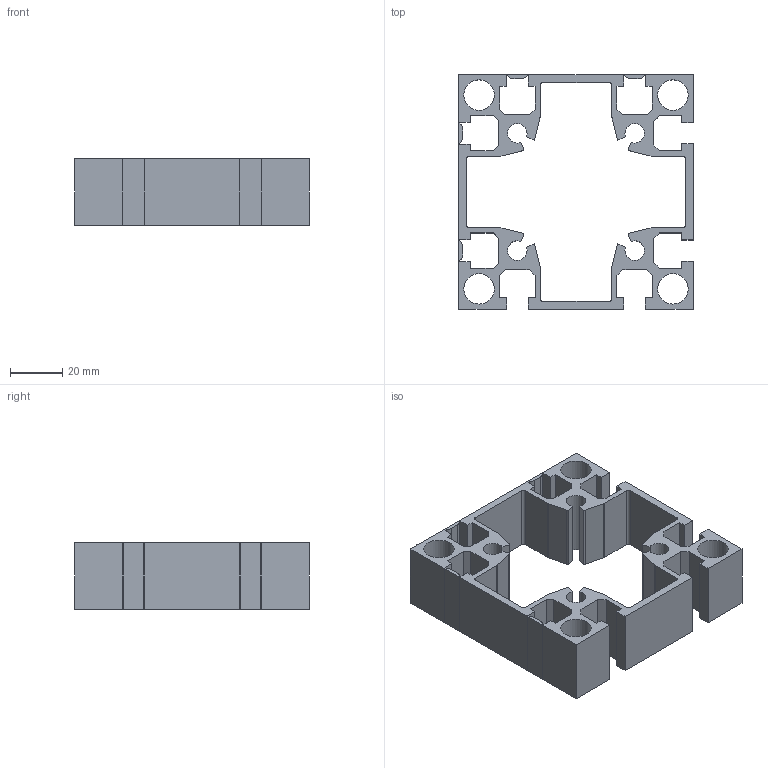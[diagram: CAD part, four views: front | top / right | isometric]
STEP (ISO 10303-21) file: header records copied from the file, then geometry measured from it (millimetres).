
FILE_DESCRIPTION((''),'2;1');
FILE_NAME('C:\Documents and Settings\Administrator\My Documents\Andys Backup Data\WEBSITE\DREAMWEAVER\MiniTec\Products\Aluminum_Profiles\CAD\STEP\20.1044 90X90 2G.stp','2011-01-18T15:10:44',('Administrator'),(''),'Autodesk Inventor 2009','Autodesk Inventor 2009','');
FILE_SCHEMA(('AUTOMOTIVE_DESIGN { 1 0 10303 214 1 1 1 1 }'));
Length unit declared in the file: inch
Products named in the file (1): 20.1044 90X90 2G
Bounding box: 90 x 90 x 25.4 mm (x, y, z)
Volume: 50583.5 mm3; surface area: 36423.4 mm2
Topology: 1 solids, 1 shells, 170 faces, 504 edges, 336 vertices
Faces by surface type: plane 130, cylinder 40
Full cylindrical faces by diameter (mm): 11.7 x4
Entity records: 5692 total; most frequent: CARTESIAN_POINT 1007, ORIENTED_EDGE 1000, DIRECTION 922, EDGE_CURVE 500, VECTOR 420, LINE 420, VERTEX_POINT 336, AXIS2_PLACEMENT_3D 251
